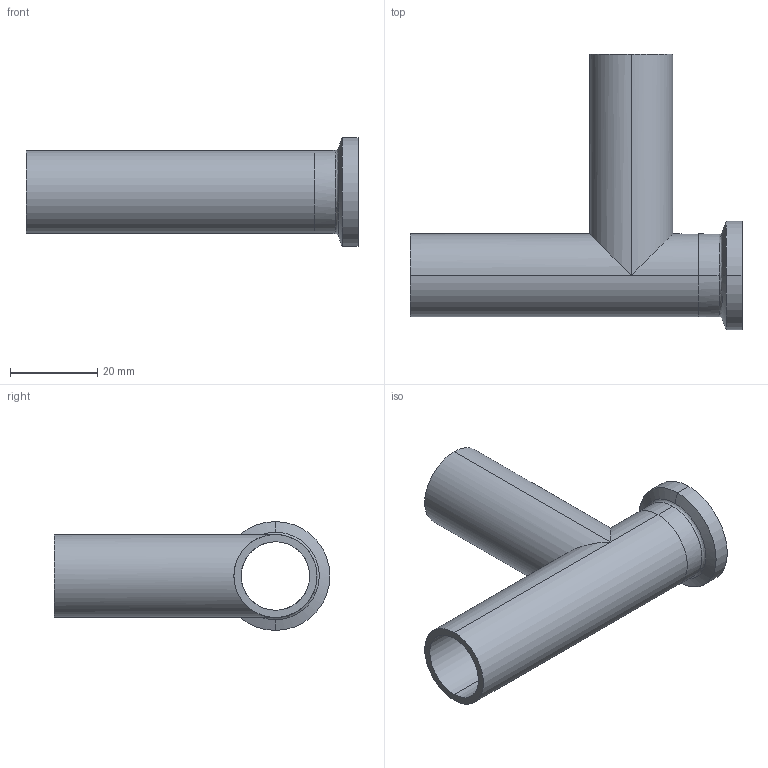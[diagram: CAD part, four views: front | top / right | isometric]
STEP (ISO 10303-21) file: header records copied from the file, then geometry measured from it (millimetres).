
FILE_DESCRIPTION (( 'STEP AP214' ), '1' );
FILE_NAME ('TE7WCSW6L.75-...STEP', '2016-05-24T11:39:48', ( 'eran' ), ( '' ), 'SwSTEP 2.0', 'SolidWorks 2016', '' );
FILE_SCHEMA (( 'AUTOMOTIVE_DESIGN' ));
Length unit declared in the file: millimetre
Products named in the file (1): TE7WCSW6L.75-..
Bounding box: 76.2 x 63.3 x 24.99 mm (x, y, z)
Volume: 11036.1 mm3; surface area: 13634.8 mm2
Topology: 2 solids, 2 shells, 36 faces, 86 edges, 54 vertices
Faces by surface type: cylinder 18, bspline 8, plane 6, cone 4
Entity records: 2076 total; most frequent: CARTESIAN_POINT 1208, DIRECTION 176, ORIENTED_EDGE 172, EDGE_CURVE 86, AXIS2_PLACEMENT_3D 76, VERTEX_POINT 54, CIRCLE 47, EDGE_LOOP 42
